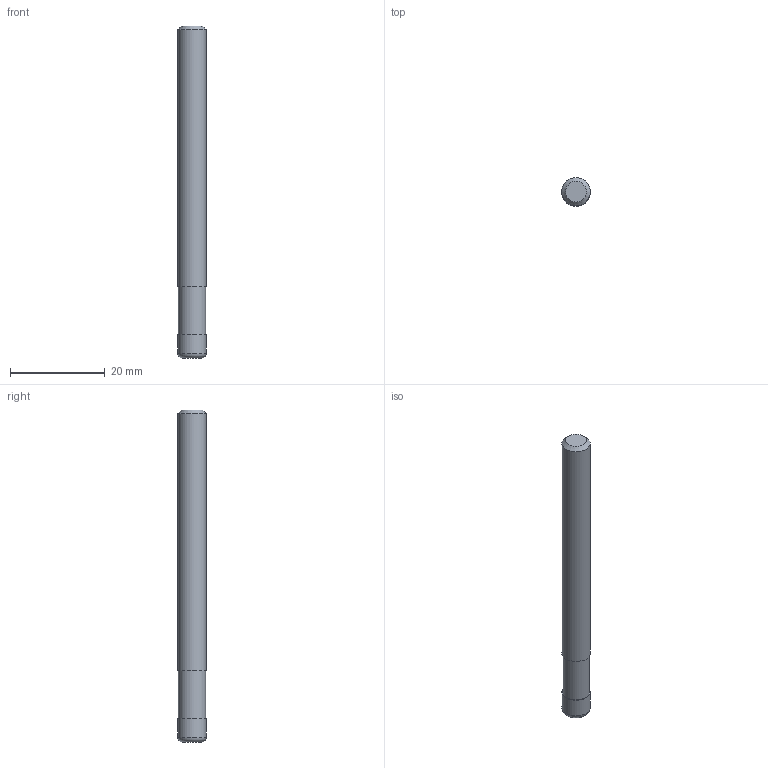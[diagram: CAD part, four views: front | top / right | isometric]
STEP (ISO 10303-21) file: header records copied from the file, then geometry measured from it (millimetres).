
FILE_DESCRIPTION((''),'2;1');
FILE_NAME('C:\Users\nsx150\AppData\Local\Temp\Mastercam 2021\CSMVKW3037\TEMP.step','2023-06-23T16:05:35',(''),(''),'STEP Write','Mastercam 2021 ... CNC Software, Inc.','');
FILE_SCHEMA(('AUTOMOTIVE_DESIGN'));
Length unit declared in the file: millimetre
Products named in the file (1): None
Bounding box: 6 x 6 x 70 mm (x, y, z)
Volume: 1942.4 mm3; surface area: 1404.9 mm2
Topology: 2 solids, 2 shells, 10 faces, 13 edges, 8 vertices
Faces by surface type: plane 5, cylinder 3, torus 1, cone 1
Full cylindrical faces by diameter (mm): 5.7 x1, 6 x2
Entity records: 232 total; most frequent: DIRECTION 40, CARTESIAN_POINT 28, AXIS2_PLACEMENT_3D 20, ORIENTED_EDGE 16, EDGE_LOOP 16, STYLED_ITEM 13, ADVANCED_FACE 10, FACE_BOUND 10
